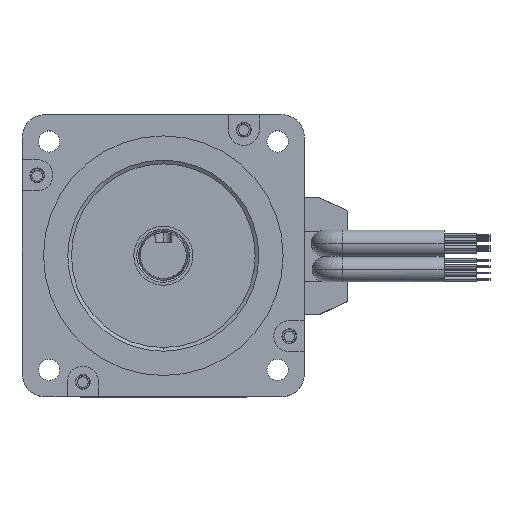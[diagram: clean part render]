
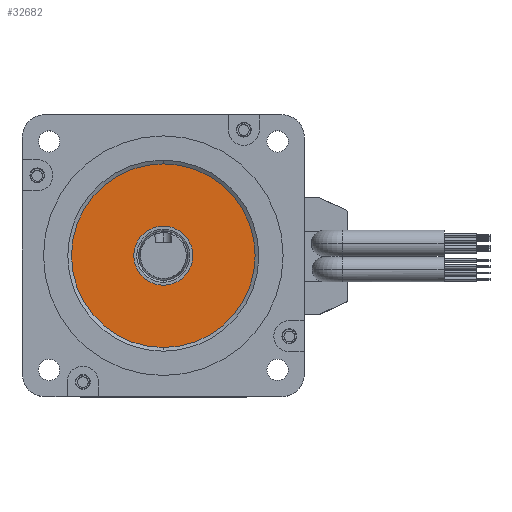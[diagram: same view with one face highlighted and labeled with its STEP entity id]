
A CAD part, top view. The second image highlights one B-rep face of the part: STEP entity #32682.
In plain terms, the highlighted planar face has unit normal (0, 0, 1) as drawn and (0, 0, -1) by its records, which use the part's own axes.
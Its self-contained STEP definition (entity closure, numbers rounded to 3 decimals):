
#80 = DIRECTION ( 'NONE',  ( -1., 0., 0. ) ) ;
#263 = DIRECTION ( 'NONE',  ( 1., 0., 0. ) ) ;
#1012 = EDGE_CURVE ( 'NONE', #38113, #16650, #30262, .T. ) ;
#1411 = DIRECTION ( 'NONE',  ( 0., 0., -1. ) ) ;
#1426 = CIRCLE ( 'NONE', #27893, 27.987 ) ;
#1809 = EDGE_LOOP ( 'NONE', ( #24755, #14438 ) ) ;
#1999 = DIRECTION ( 'NONE',  ( -1., 0., 0. ) ) ;
#3041 = DIRECTION ( 'NONE',  ( 0., 0., -1. ) ) ;
#5073 = FACE_OUTER_BOUND ( 'NONE', #12007, .T. ) ;
#10561 = CARTESIAN_POINT ( 'NONE',  ( -27.987, 0., -0.8 ) ) ;
#10774 = DIRECTION ( 'NONE',  ( 0., 0., 1. ) ) ;
#12000 = CARTESIAN_POINT ( 'NONE',  ( 0., 27.987, -0.8 ) ) ;
#12007 = EDGE_LOOP ( 'NONE', ( #34814, #19431 ) ) ;
#14438 = ORIENTED_EDGE ( 'NONE', *, *, #25536, .F. ) ;
#15299 = CARTESIAN_POINT ( 'NONE',  ( 0., 0., -0.8 ) ) ;
#16226 = AXIS2_PLACEMENT_3D ( 'NONE', #32006, #1411, #1999 ) ;
#16643 = AXIS2_PLACEMENT_3D ( 'NONE', #12000, #35490, #32322 ) ;
#16650 = VERTEX_POINT ( 'NONE', #10561 ) ;
#17039 = AXIS2_PLACEMENT_3D ( 'NONE', #15299, #18459, #263 ) ;
#18459 = DIRECTION ( 'NONE',  ( 0., 0., 1. ) ) ;
#18469 = CARTESIAN_POINT ( 'NONE',  ( 0., 0., -0.8 ) ) ;
#19210 = CARTESIAN_POINT ( 'NONE',  ( 27.987, 0., -0.8 ) ) ;
#19431 = ORIENTED_EDGE ( 'NONE', *, *, #1012, .F. ) ;
#19528 = CARTESIAN_POINT ( 'NONE',  ( 9., 0., -0.8 ) ) ;
#20657 = CIRCLE ( 'NONE', #16226, 9. ) ;
#22006 = CARTESIAN_POINT ( 'NONE',  ( 0., 0., -0.8 ) ) ;
#23457 = FACE_BOUND ( 'NONE', #1809, .T. ) ;
#23598 = AXIS2_PLACEMENT_3D ( 'NONE', #18469, #3041, #80 ) ;
#23599 = EDGE_CURVE ( 'NONE', #25614, #32674, #26752, .T. ) ;
#24755 = ORIENTED_EDGE ( 'NONE', *, *, #23599, .F. ) ;
#25536 = EDGE_CURVE ( 'NONE', #32674, #25614, #20657, .T. ) ;
#25614 = VERTEX_POINT ( 'NONE', #19528 ) ;
#26752 = CIRCLE ( 'NONE', #23598, 9. ) ;
#27893 = AXIS2_PLACEMENT_3D ( 'NONE', #22006, #10774, #31101 ) ;
#29160 = PLANE ( 'NONE',  #16643 ) ;
#29549 = CARTESIAN_POINT ( 'NONE',  ( -9., 0., -0.8 ) ) ;
#30262 = CIRCLE ( 'NONE', #17039, 27.987 ) ;
#31101 = DIRECTION ( 'NONE',  ( 1., 0., 0. ) ) ;
#31754 = EDGE_CURVE ( 'NONE', #16650, #38113, #1426, .T. ) ;
#32006 = CARTESIAN_POINT ( 'NONE',  ( 0., 0., -0.8 ) ) ;
#32322 = DIRECTION ( 'NONE',  ( -1., 0., 0. ) ) ;
#32674 = VERTEX_POINT ( 'NONE', #29549 ) ;
#32682 = ADVANCED_FACE ( 'NONE', ( #23457, #5073 ), #29160, .T. ) ;
#34814 = ORIENTED_EDGE ( 'NONE', *, *, #31754, .F. ) ;
#35490 = DIRECTION ( 'NONE',  ( 0., 0., -1. ) ) ;
#38113 = VERTEX_POINT ( 'NONE', #19210 ) ;
